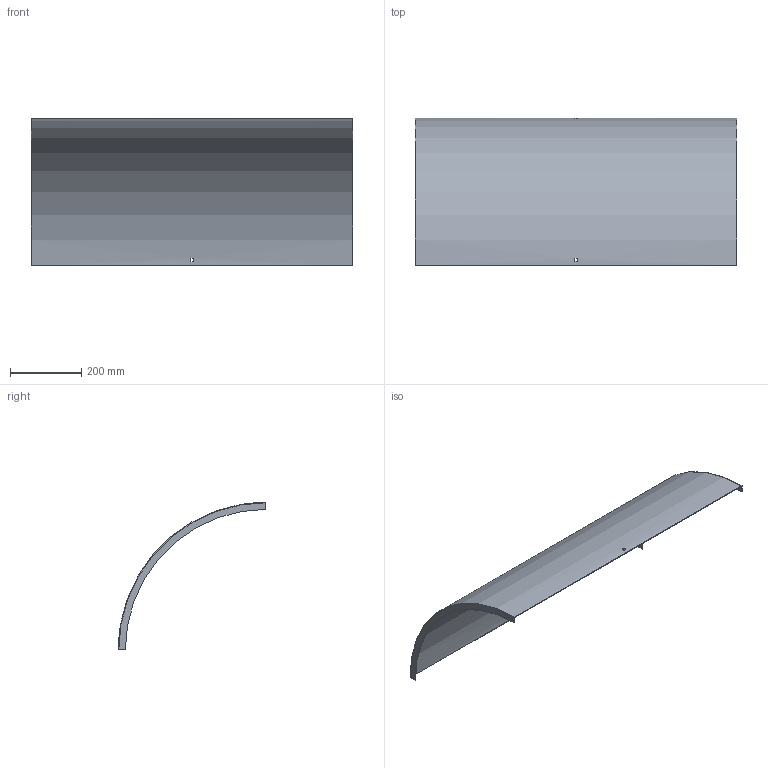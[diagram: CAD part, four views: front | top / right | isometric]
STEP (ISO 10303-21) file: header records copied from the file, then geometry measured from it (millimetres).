
FILE_DESCRIPTION (( 'STEP AP214' ), '1' );
FILE_NAME ('B2_33N3J900.step', '2025-02-21T10:47:56', ( '' ), ( '' ), 'SwSTEP 2.0', 'SolidWorks 2023', '' );
FILE_SCHEMA (( 'AUTOMOTIVE_DESIGN' ));
Length unit declared in the file: millimetre
Products named in the file (1): B2_33N3J900
Bounding box: 903 x 414 x 414 mm (x, y, z)
Volume: 914228.1 mm3; surface area: 1223744.1 mm2
Topology: 1 solids, 1 shells, 18 faces, 48 edges, 32 vertices
Faces by surface type: plane 14, cylinder 4
Entity records: 599 total; most frequent: DIRECTION 102, CARTESIAN_POINT 99, ORIENTED_EDGE 96, EDGE_CURVE 48, AXIS2_PLACEMENT_3D 35, LINE 32, VECTOR 32, VERTEX_POINT 32
